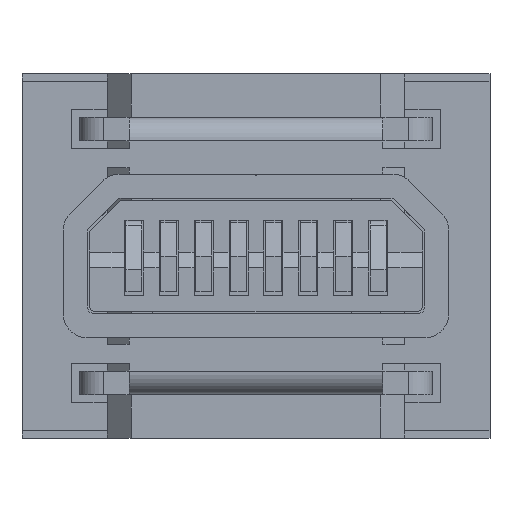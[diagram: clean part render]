
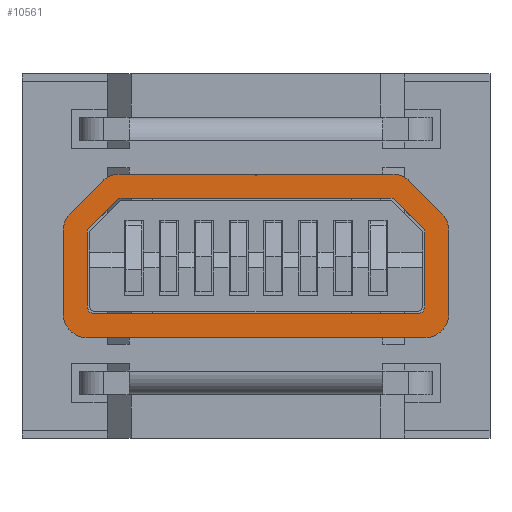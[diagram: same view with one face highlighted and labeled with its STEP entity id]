
A CAD part, front view. The second image highlights one B-rep face of the part: STEP entity #10561.
In plain terms, the highlighted planar face has unit normal (0, -1, 0).
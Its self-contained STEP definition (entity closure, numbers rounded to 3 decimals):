
#2027=DIRECTION('',(1.,0.,0.));
#2028=VECTOR('',#2027,0.02);
#2029=CARTESIAN_POINT('',(-0.01,-7.1,1.01));
#2030=LINE('',#2029,#2028);
#2031=DIRECTION('',(0.,0.,-1.));
#2032=VECTOR('',#2031,0.02);
#2033=CARTESIAN_POINT('',(0.01,-7.1,1.03));
#2034=LINE('',#2033,#2032);
#2035=DIRECTION('',(-1.,0.,0.));
#2036=VECTOR('',#2035,1.716);
#2037=CARTESIAN_POINT('',(1.726,-7.1,1.03));
#2038=LINE('',#2037,#2036);
#2039=CARTESIAN_POINT('',(1.726,-7.1,0.73));
#2040=DIRECTION('',(0.,-1.,0.));
#2041=DIRECTION('',(0.707,0.,0.707));
#2042=AXIS2_PLACEMENT_3D('',#2039,#2040,#2041);
#2044=DIRECTION('',(-0.707,0.,0.707));
#2045=VECTOR('',#2044,0.572);
#2046=CARTESIAN_POINT('',(2.342,-7.1,0.538));
#2047=LINE('',#2046,#2045);
#2048=CARTESIAN_POINT('',(2.13,-7.1,0.326));
#2049=DIRECTION('',(0.,-1.,0.));
#2050=DIRECTION('',(1.,0.,0.));
#2051=AXIS2_PLACEMENT_3D('',#2048,#2049,#2050);
#2053=DIRECTION('',(0.,0.,1.));
#2054=VECTOR('',#2053,1.056);
#2055=CARTESIAN_POINT('',(2.43,-7.1,-0.73));
#2056=LINE('',#2055,#2054);
#2057=CARTESIAN_POINT('',(2.13,-7.1,-0.73));
#2058=DIRECTION('',(0.,-1.,0.));
#2059=DIRECTION('',(0.,0.,-1.));
#2060=AXIS2_PLACEMENT_3D('',#2057,#2058,#2059);
#2062=DIRECTION('',(1.,0.,0.));
#2063=VECTOR('',#2062,4.26);
#2064=CARTESIAN_POINT('',(-2.13,-7.1,-1.03));
#2065=LINE('',#2064,#2063);
#2066=CARTESIAN_POINT('',(-2.13,-7.1,-0.73));
#2067=DIRECTION('',(0.,-1.,0.));
#2068=DIRECTION('',(-1.,0.,0.));
#2069=AXIS2_PLACEMENT_3D('',#2066,#2067,#2068);
#2071=DIRECTION('',(0.,0.,-1.));
#2072=VECTOR('',#2071,1.056);
#2073=CARTESIAN_POINT('',(-2.43,-7.1,0.326));
#2074=LINE('',#2073,#2072);
#2075=CARTESIAN_POINT('',(-2.13,-7.1,0.326));
#2076=DIRECTION('',(0.,-1.,0.));
#2077=DIRECTION('',(-0.707,0.,0.707));
#2078=AXIS2_PLACEMENT_3D('',#2075,#2076,#2077);
#2080=DIRECTION('',(-0.707,0.,-0.707));
#2081=VECTOR('',#2080,0.572);
#2082=CARTESIAN_POINT('',(-1.938,-7.1,0.942));
#2083=LINE('',#2082,#2081);
#2084=CARTESIAN_POINT('',(-1.726,-7.1,0.73));
#2085=DIRECTION('',(0.,-1.,0.));
#2086=DIRECTION('',(0.,0.,1.));
#2087=AXIS2_PLACEMENT_3D('',#2084,#2085,#2086);
#2089=DIRECTION('',(-1.,0.,0.));
#2090=VECTOR('',#2089,1.716);
#2091=CARTESIAN_POINT('',(-0.01,-7.1,1.03));
#2092=LINE('',#2091,#2090);
#2093=DIRECTION('',(0.,0.,-1.));
#2094=VECTOR('',#2093,0.02);
#2095=CARTESIAN_POINT('',(-0.01,-7.1,1.03));
#2096=LINE('',#2095,#2094);
#2097=DIRECTION('',(-0.707,0.,0.707));
#2098=VECTOR('',#2097,0.489);
#2099=CARTESIAN_POINT('',(2.101,-7.1,0.355));
#2100=LINE('',#2099,#2098);
#2101=DIRECTION('',(-1.,0.,0.));
#2102=VECTOR('',#2101,3.369);
#2103=CARTESIAN_POINT('',(1.684,-7.1,0.73));
#2104=LINE('',#2103,#2102);
#2105=DIRECTION('',(-0.707,0.,-0.707));
#2106=VECTOR('',#2105,0.489);
#2107=CARTESIAN_POINT('',(-1.755,-7.1,0.701));
#2108=LINE('',#2107,#2106);
#2109=DIRECTION('',(0.,0.,-1.));
#2110=VECTOR('',#2109,0.914);
#2111=CARTESIAN_POINT('',(-2.13,-7.1,0.284));
#2112=LINE('',#2111,#2110);
#2113=DIRECTION('',(1.,0.,0.));
#2114=VECTOR('',#2113,4.06);
#2115=CARTESIAN_POINT('',(-2.03,-7.1,-0.73));
#2116=LINE('',#2115,#2114);
#2117=DIRECTION('',(0.,0.,1.));
#2118=VECTOR('',#2117,0.914);
#2119=CARTESIAN_POINT('',(2.13,-7.1,-0.63));
#2120=LINE('',#2119,#2118);
#2433=CARTESIAN_POINT('',(2.03,-7.1,0.284));
#2434=DIRECTION('',(0.,1.,0.));
#2435=DIRECTION('',(0.707,0.,0.707));
#2436=AXIS2_PLACEMENT_3D('',#2433,#2434,#2435);
#4970=CARTESIAN_POINT('',(-2.03,-7.1,-0.63));
#4971=DIRECTION('',(0.,1.,0.));
#4972=DIRECTION('',(0.,0.,-1.));
#4973=AXIS2_PLACEMENT_3D('',#4970,#4971,#4972);
#4983=CARTESIAN_POINT('',(-2.03,-7.1,0.284));
#4984=DIRECTION('',(0.,1.,0.));
#4985=DIRECTION('',(-1.,0.,0.));
#4986=AXIS2_PLACEMENT_3D('',#4983,#4984,#4985);
#5000=CARTESIAN_POINT('',(-1.684,-7.1,0.63));
#5001=DIRECTION('',(0.,1.,0.));
#5002=DIRECTION('',(-0.707,0.,0.707));
#5003=AXIS2_PLACEMENT_3D('',#5000,#5001,#5002);
#5022=CARTESIAN_POINT('',(1.684,-7.1,0.63));
#5023=DIRECTION('',(0.,1.,0.));
#5024=DIRECTION('',(0.,0.,1.));
#5025=AXIS2_PLACEMENT_3D('',#5022,#5023,#5024);
#5032=CARTESIAN_POINT('',(2.03,-7.1,-0.63));
#5033=DIRECTION('',(0.,1.,0.));
#5034=DIRECTION('',(1.,0.,0.));
#5035=AXIS2_PLACEMENT_3D('',#5032,#5033,#5034);
#6255=CARTESIAN_POINT('',(-1.726,-7.1,1.03));
#6256=CARTESIAN_POINT('',(-1.938,-7.1,0.942));
#6257=VERTEX_POINT('',#6255);
#6258=VERTEX_POINT('',#6256);
#6261=CARTESIAN_POINT('',(-2.342,-7.1,0.538));
#6263=VERTEX_POINT('',#6261);
#6265=CARTESIAN_POINT('',(-2.43,-7.1,0.326));
#6266=VERTEX_POINT('',#6265);
#6269=CARTESIAN_POINT('',(-2.43,-7.1,-0.73));
#6271=VERTEX_POINT('',#6269);
#6273=CARTESIAN_POINT('',(-2.13,-7.1,-1.03));
#6274=VERTEX_POINT('',#6273);
#6277=CARTESIAN_POINT('',(1.938,-7.1,0.942));
#6279=VERTEX_POINT('',#6277);
#6281=CARTESIAN_POINT('',(1.726,-7.1,1.03));
#6282=VERTEX_POINT('',#6281);
#6283=CARTESIAN_POINT('',(2.43,-7.1,0.326));
#6285=VERTEX_POINT('',#6283);
#6287=CARTESIAN_POINT('',(2.342,-7.1,0.538));
#6288=VERTEX_POINT('',#6287);
#6291=CARTESIAN_POINT('',(2.13,-7.1,-1.03));
#6293=VERTEX_POINT('',#6291);
#6295=CARTESIAN_POINT('',(2.43,-7.1,-0.73));
#6296=VERTEX_POINT('',#6295);
#6747=CARTESIAN_POINT('',(-0.01,-7.1,1.01));
#6748=CARTESIAN_POINT('',(0.01,-7.1,1.01));
#6749=VERTEX_POINT('',#6747);
#6750=VERTEX_POINT('',#6748);
#6815=CARTESIAN_POINT('',(-0.01,-7.1,1.03));
#6816=VERTEX_POINT('',#6815);
#6817=CARTESIAN_POINT('',(0.01,-7.1,1.03));
#6818=VERTEX_POINT('',#6817);
#7147=CARTESIAN_POINT('',(2.101,-7.1,0.355));
#7148=VERTEX_POINT('',#7147);
#7149=CARTESIAN_POINT('',(2.13,-7.1,0.284));
#7150=VERTEX_POINT('',#7149);
#7151=CARTESIAN_POINT('',(1.684,-7.1,0.73));
#7153=VERTEX_POINT('',#7151);
#7155=CARTESIAN_POINT('',(1.755,-7.1,0.701));
#7157=VERTEX_POINT('',#7155);
#7159=CARTESIAN_POINT('',(-1.755,-7.1,0.701));
#7161=VERTEX_POINT('',#7159);
#7163=CARTESIAN_POINT('',(-1.684,-7.1,0.73));
#7165=VERTEX_POINT('',#7163);
#7171=CARTESIAN_POINT('',(-2.13,-7.1,0.284));
#7172=VERTEX_POINT('',#7171);
#7173=CARTESIAN_POINT('',(-2.101,-7.1,0.355));
#7174=VERTEX_POINT('',#7173);
#7179=CARTESIAN_POINT('',(-2.03,-7.1,-0.73));
#7180=VERTEX_POINT('',#7179);
#7181=CARTESIAN_POINT('',(-2.13,-7.1,-0.63));
#7182=VERTEX_POINT('',#7181);
#7187=CARTESIAN_POINT('',(2.13,-7.1,-0.63));
#7188=VERTEX_POINT('',#7187);
#7189=CARTESIAN_POINT('',(2.03,-7.1,-0.73));
#7190=VERTEX_POINT('',#7189);
#10509=CARTESIAN_POINT('',(0.,-7.1,-2.3));
#10510=DIRECTION('',(0.,-1.,0.));
#10511=DIRECTION('',(1.,0.,0.));
#10512=AXIS2_PLACEMENT_3D('',#10509,#10510,#10511);
#10513=PLANE('',#10512);
#10515=ORIENTED_EDGE('',*,*,#10514,.T.);
#10517=ORIENTED_EDGE('',*,*,#10516,.F.);
#10518=ORIENTED_EDGE('',*,*,#10353,.F.);
#10519=ORIENTED_EDGE('',*,*,#10448,.F.);
#10520=ORIENTED_EDGE('',*,*,#10463,.F.);
#10521=ORIENTED_EDGE('',*,*,#10475,.F.);
#10522=ORIENTED_EDGE('',*,*,#10491,.F.);
#10523=ORIENTED_EDGE('',*,*,#10502,.F.);
#10524=ORIENTED_EDGE('',*,*,#10246,.F.);
#10525=ORIENTED_EDGE('',*,*,#10280,.F.);
#10526=ORIENTED_EDGE('',*,*,#10294,.F.);
#10527=ORIENTED_EDGE('',*,*,#10308,.F.);
#10528=ORIENTED_EDGE('',*,*,#10322,.F.);
#10529=ORIENTED_EDGE('',*,*,#10337,.F.);
#10530=ORIENTED_EDGE('',*,*,#10432,.F.);
#10532=ORIENTED_EDGE('',*,*,#10531,.T.);
#10533=EDGE_LOOP('',(#10515,#10517,#10518,#10519,#10520,#10521,#10522,#10523,
#10524,#10525,#10526,#10527,#10528,#10529,#10530,#10532));
#10534=FACE_OUTER_BOUND('',#10533,.F.);
#10536=ORIENTED_EDGE('',*,*,#10535,.T.);
#10538=ORIENTED_EDGE('',*,*,#10537,.F.);
#10540=ORIENTED_EDGE('',*,*,#10539,.T.);
#10542=ORIENTED_EDGE('',*,*,#10541,.F.);
#10544=ORIENTED_EDGE('',*,*,#10543,.T.);
#10546=ORIENTED_EDGE('',*,*,#10545,.F.);
#10548=ORIENTED_EDGE('',*,*,#10547,.T.);
#10550=ORIENTED_EDGE('',*,*,#10549,.F.);
#10552=ORIENTED_EDGE('',*,*,#10551,.T.);
#10554=ORIENTED_EDGE('',*,*,#10553,.F.);
#10556=ORIENTED_EDGE('',*,*,#10555,.T.);
#10558=ORIENTED_EDGE('',*,*,#10557,.F.);
#10559=EDGE_LOOP('',(#10536,#10538,#10540,#10542,#10544,#10546,#10548,#10550,
#10552,#10554,#10556,#10558));
#10560=FACE_BOUND('',#10559,.F.);
#2043=CIRCLE('',#2042,0.3);
#2052=CIRCLE('',#2051,0.3);
#2061=CIRCLE('',#2060,0.3);
#2070=CIRCLE('',#2069,0.3);
#2079=CIRCLE('',#2078,0.3);
#2088=CIRCLE('',#2087,0.3);
#2437=CIRCLE('',#2436,0.1);
#4974=CIRCLE('',#4973,0.1);
#4987=CIRCLE('',#4986,0.1);
#5004=CIRCLE('',#5003,0.1);
#5026=CIRCLE('',#5025,0.1);
#5036=CIRCLE('',#5035,0.1);
#10246=EDGE_CURVE('',#6274,#6293,#2065,.T.);
#10280=EDGE_CURVE('',#6271,#6274,#2070,.T.);
#10294=EDGE_CURVE('',#6266,#6271,#2074,.T.);
#10308=EDGE_CURVE('',#6263,#6266,#2079,.T.);
#10322=EDGE_CURVE('',#6258,#6263,#2083,.T.);
#10337=EDGE_CURVE('',#6257,#6258,#2088,.T.);
#10353=EDGE_CURVE('',#6282,#6818,#2038,.T.);
#10432=EDGE_CURVE('',#6816,#6257,#2092,.T.);
#10448=EDGE_CURVE('',#6279,#6282,#2043,.T.);
#10463=EDGE_CURVE('',#6288,#6279,#2047,.T.);
#10475=EDGE_CURVE('',#6285,#6288,#2052,.T.);
#10491=EDGE_CURVE('',#6296,#6285,#2056,.T.);
#10502=EDGE_CURVE('',#6293,#6296,#2061,.T.);
#10514=EDGE_CURVE('',#6749,#6750,#2030,.T.);
#10516=EDGE_CURVE('',#6818,#6750,#2034,.T.);
#10531=EDGE_CURVE('',#6816,#6749,#2096,.T.);
#10535=EDGE_CURVE('',#7148,#7157,#2100,.T.);
#10537=EDGE_CURVE('',#7153,#7157,#5026,.T.);
#10539=EDGE_CURVE('',#7153,#7165,#2104,.T.);
#10541=EDGE_CURVE('',#7161,#7165,#5004,.T.);
#10543=EDGE_CURVE('',#7161,#7174,#2108,.T.);
#10545=EDGE_CURVE('',#7172,#7174,#4987,.T.);
#10547=EDGE_CURVE('',#7172,#7182,#2112,.T.);
#10549=EDGE_CURVE('',#7180,#7182,#4974,.T.);
#10551=EDGE_CURVE('',#7180,#7190,#2116,.T.);
#10553=EDGE_CURVE('',#7188,#7190,#5036,.T.);
#10555=EDGE_CURVE('',#7188,#7150,#2120,.T.);
#10557=EDGE_CURVE('',#7148,#7150,#2437,.T.);
#10561=ADVANCED_FACE('',(#10534,#10560),#10513,.T.);
